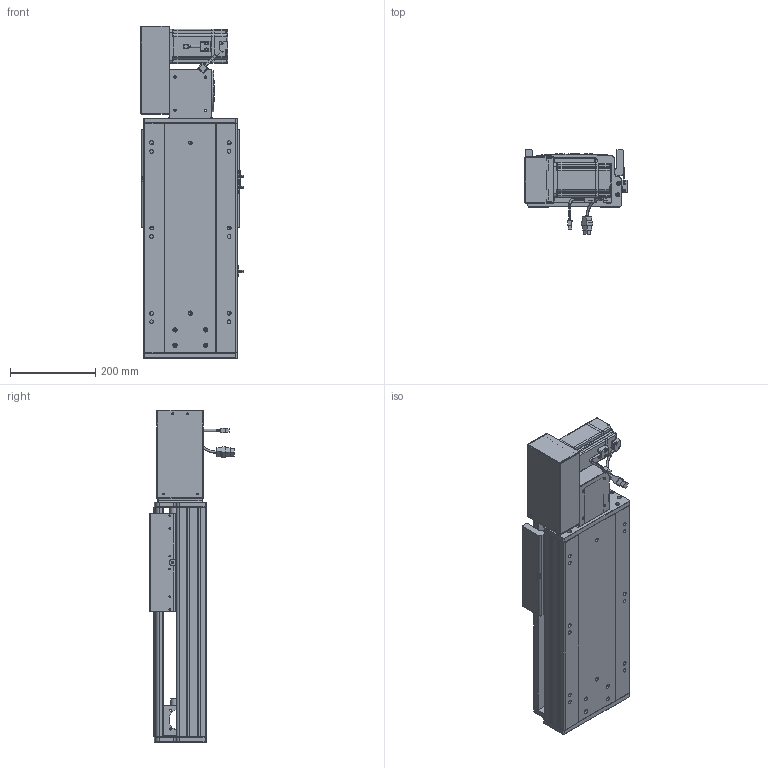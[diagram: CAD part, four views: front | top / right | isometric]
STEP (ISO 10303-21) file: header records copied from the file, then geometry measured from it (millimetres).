
FILE_DESCRIPTION (( 'STEP AP203' ), '1' );
FILE_NAME ('RY220-T-300-LK.SLDASM_200.step', '2022-07-25T08:12:55', ( '' ), ( '' ), 'SwSTEP 2.0', 'SolidWorks 2016', '' );
FILE_SCHEMA (( 'CONFIG_CONTROL_DESIGN' ));
Length unit declared in the file: millimetre
Products named in the file (14): 怢湛750W_ECMA-CX0807ES; RY220圉猾敕々湍臏賑輸; 覜茼ん672; RY220翋肮祭謫釱; RY220-俋离672覜茼んえ; RY220-T-300-LK.SLDASM_200; RY220-T-蛌殏萇儂假蚾啣(750W); RY220-同步轮副支撑座6304×2; 滅袉蝶18-15; RY220翋肮祭謫裔啣; RY220-T-300-奻裔啣_200; 110A-T-肮祭謫釱傷裔; RY220-T菁釱-300_200; RY220-T-湍謫欶(鍼踢)
Assembly tree (18 placements, depth 2):
  RY220-T-300-LK.SLDASM_200
    RY220-T菁釱-300_200
    RY220翋肮祭謫釱
    覜茼ん672  x3
    RY220圉猾敕々湍臏賑輸
    RY220-T-300-奻裔啣_200
    RY220-俋离672覜茼んえ
    滅袉蝶18-15  x3
    RY220翋肮祭謫裔啣  x2
    110A-T-肮祭謫釱傷裔
    怢湛750W_ECMA-CX0807ES
    RY220-T-湍謫欶(鍼踢)
    RY220-T-蛌殏萇儂假蚾啣(750W)
    RY220-同步轮副支撑座6304×2
Bounding box: 239.7 x 198.77 x 779 mm (x, y, z)
Volume: 7085308.4 mm3; surface area: 1892157.5 mm2
Topology: 19 solids, 19 shells, 2456 faces, 6763 edges, 4322 vertices
Faces by surface type: cylinder 1112, plane 1069, cone 193, bspline 56, sphere 16, torus 10
Entity records: 81523 total; most frequent: CARTESIAN_POINT 23393, ORIENTED_EDGE 12122, DIRECTION 11308, EDGE_CURVE 6061, AXIS2_PLACEMENT_3D 3946, VERTEX_POINT 3946, VECTOR 3416, LINE 3416
